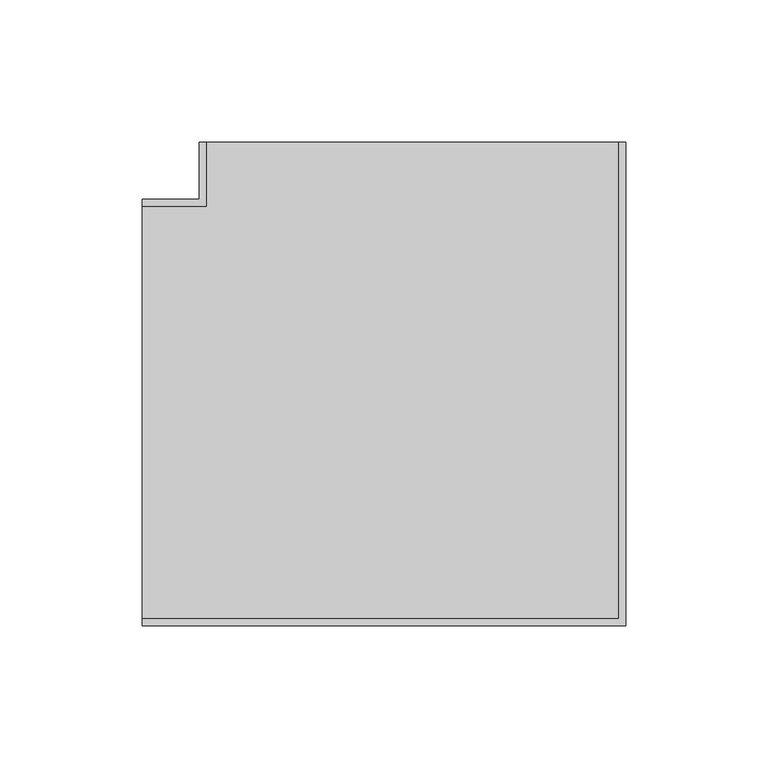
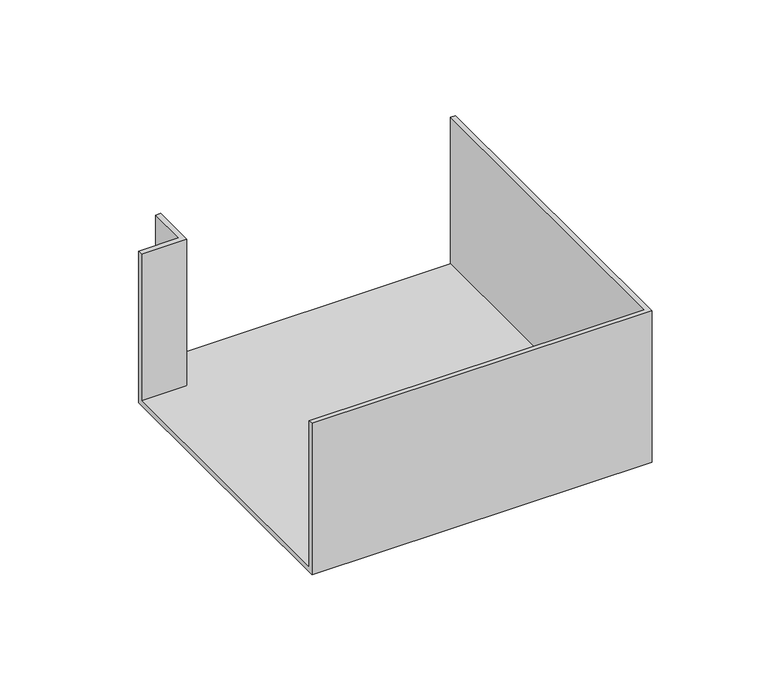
"""IFC4 building model written with IfcOpenShell, lengths in millimetres: cable carrier fitting geometry, КНС_УголПлоский NPAN_ILC_DKC : Угол плоский NPAN_DKC."""

from ifc_helpers import new_model, si_unit, origin, place, context, project, spatial, faceted_brep, source, transform, mapped, element, save


def cable_carrier_fitting_b38a09ab(model_context):
    return source(origin(), model_context, "Body", "Brep", [
        faceted_brep([(-95.0, 75.0, -40.0), (-95.0, -75.0, -40.0), (-95.0, -75.0, 40.0), (-95.0, -72.5, 40.0), (-95.0, -72.5, -37.5), (-95.0, 72.5, -37.5), (-95.0, 72.5, 40.0), (-95.0, 75.0, 40.0), (-75.0, 75.0, -40.0), (-75.0, 95.0, -40.0), (75.0, 95.0, -40.0), (75.0, -75.0, -40.0), (75.0, -75.0, 40.0), (75.0, 95.0, 40.0), (72.5, 95.0, 40.0), (72.5, -72.5, 40.0), (72.5, -72.5, -37.5), (72.5, 95.0, -37.5), (-72.5, 95.0, -37.5), (-72.5, 72.5, -37.5), (-72.5, 72.5, 40.0), (-72.5, 95.0, 40.0), (-75.0, 95.0, 40.0), (-75.0, 75.0, 40.0)], [[[0, 1, 2, 3, 4, 5, 6, 7]], [[1, 0, 8, 9, 10, 11]], [[2, 1, 11, 12]], [[3, 2, 12, 13, 14, 15]], [[4, 3, 15, 16]], [[5, 4, 16, 17, 18, 19]], [[6, 5, 19, 20]], [[7, 6, 20, 21, 22, 23]], [[0, 7, 23, 8]], [[9, 22, 21, 18, 17, 14, 13, 10]], [[12, 11, 10, 13]], [[16, 15, 14, 17]], [[20, 19, 18, 21]], [[8, 23, 22, 9]]]),
    ])


if __name__ == "__main__":
    model = new_model("IFC4")
    model_context = context("Model", 3, world=origin())
    ifc_project = project(units=[si_unit("LENGTHUNIT", "METRE", prefix="MILLI")], contexts=[model_context])
    site = spatial("IfcSite", under=ifc_project)
    building = spatial("IfcBuilding", under=site)
    placement = place(None, origin())
    cable_carrier_fitting_shape = cable_carrier_fitting_b38a09ab(model_context)
    element("IfcCableCarrierFitting", 1, ObjectType="КНС_УголПлоский NPAN_ILC_DKC : Угол плоский NPAN_DKC", at=placement, inside=building, context=model_context, shape_type="MappedRepresentation", body=[
        mapped(cable_carrier_fitting_shape, transform((0.0, 0.0, 0.0), x_axis=(1.0, 0.0, 0.0), y_axis=(0.0, 1.0, 0.0), z_axis=(0.0, 0.0, 1.0))),
    ])
    save(model, "model.ifc")
